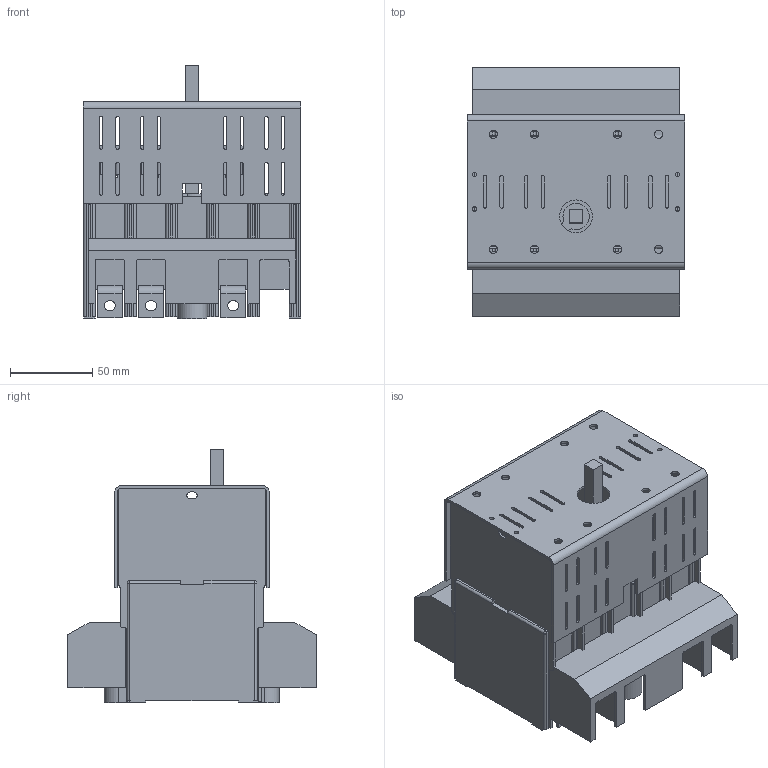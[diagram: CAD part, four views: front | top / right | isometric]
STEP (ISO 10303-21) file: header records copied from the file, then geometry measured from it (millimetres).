
FILE_DESCRIPTION(/* description */ (''),/* implementation_level */ '2;1');
FILE_NAME(/* name */ 'RAB 000 P3 C z oslona zaciskow.stp',/* time_stamp */ '2021-08-19T10:50:16+02:00',/* author */ (''),/* organization */ (''),/* preprocessor_version */ 'ST-DEVELOPER v18.1',/* originating_system */ 'SIEMENS PLM Software NX 1965',/* authorisation */ '');
FILE_SCHEMA (('AUTOMOTIVE_DESIGN { 1 0 10303 214 3 1 1 1 }'));
Length unit declared in the file: millimetre
Products named in the file (1): RAB 000 P3 C z oslona zaciskow_stp
Bounding box: 132.5 x 151.03 x 154 mm (x, y, z)
Volume: 774747.3 mm3; surface area: 257770.7 mm2
Topology: 1 solids, 1 shells, 1161 faces, 3371 edges, 2175 vertices
Faces by surface type: plane 769, cylinder 368, sphere 23, bspline 1
Full cylindrical faces by diameter (mm): 2.7 x4, 5 x8, 5.8 x2, 6.5 x6, 10 x2, 11.5 x2, 20 x1
Entity records: 38006 total; most frequent: CARTESIAN_POINT 6931, ORIENTED_EDGE 6616, DIRECTION 6272, EDGE_CURVE 3308, LINE 2504, VECTOR 2504, VERTEX_POINT 2161, AXIS2_PLACEMENT_3D 1884
